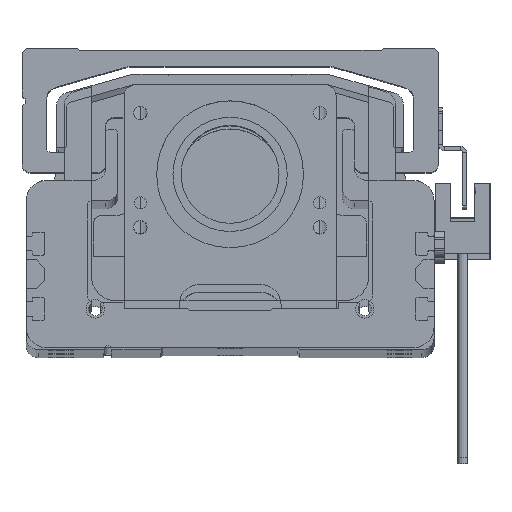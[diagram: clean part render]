
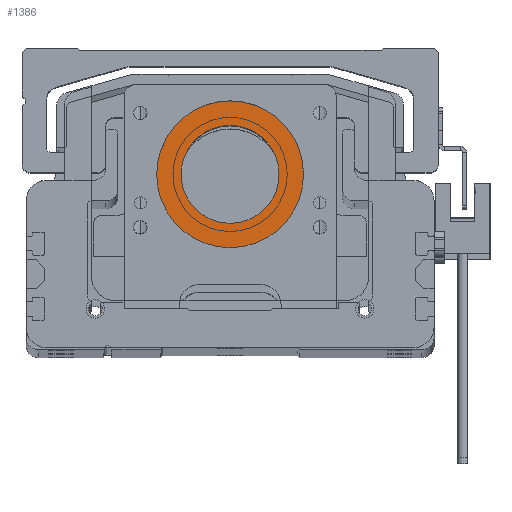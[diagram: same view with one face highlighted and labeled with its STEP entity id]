
A CAD part, top view. The second image highlights one B-rep face of the part: STEP entity #1386.
In plain terms, the highlighted planar face has unit normal (0, 0, 1).
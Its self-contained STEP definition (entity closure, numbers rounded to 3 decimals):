
#444 = ORIENTED_EDGE ( 'NONE', *, *, #28248, .F. ) ;
#1367 = VERTEX_POINT ( 'NONE', #7648 ) ;
#1386 = ADVANCED_FACE ( 'NONE', ( #25254, #20222 ), #19159, .T. ) ;
#3320 = AXIS2_PLACEMENT_3D ( 'NONE', #26823, #11788, #29300 ) ;
#3762 = VERTEX_POINT ( 'NONE', #11375 ) ;
#6545 = AXIS2_PLACEMENT_3D ( 'NONE', #17892, #16988, #17840 ) ;
#7648 = CARTESIAN_POINT ( 'NONE',  ( -12., 33., 2.5 ) ) ;
#8000 = VERTEX_POINT ( 'NONE', #25810 ) ;
#8312 = CARTESIAN_POINT ( 'NONE',  ( 0., 33., 2.5 ) ) ;
#8843 = CIRCLE ( 'NONE', #3320, 18. ) ;
#9722 = EDGE_CURVE ( 'NONE', #3762, #8000, #29353, .T. ) ;
#10732 = VERTEX_POINT ( 'NONE', #19808 ) ;
#10898 = DIRECTION ( 'NONE',  ( 1., 0., 0. ) ) ;
#11375 = CARTESIAN_POINT ( 'NONE',  ( 18., 33., 2.5 ) ) ;
#11782 = EDGE_CURVE ( 'NONE', #1367, #10732, #15376, .T. ) ;
#11788 = DIRECTION ( 'NONE',  ( 0., 0., 1. ) ) ;
#12313 = AXIS2_PLACEMENT_3D ( 'NONE', #8312, #25926, #10898 ) ;
#12729 = CIRCLE ( 'NONE', #12313, 12. ) ;
#13411 = EDGE_LOOP ( 'NONE', ( #444, #32366 ) ) ;
#14792 = DIRECTION ( 'NONE',  ( 0., 0., 1. ) ) ;
#14838 = CARTESIAN_POINT ( 'NONE',  ( 0., 33., 2.5 ) ) ;
#14867 = DIRECTION ( 'NONE',  ( 1., 0., 0. ) ) ;
#14897 = DIRECTION ( 'NONE',  ( 0., 0., 1. ) ) ;
#15376 = CIRCLE ( 'NONE', #6545, 12. ) ;
#15767 = CARTESIAN_POINT ( 'NONE',  ( 0., 33., 2.5 ) ) ;
#16988 = DIRECTION ( 'NONE',  ( 0., 0., 1. ) ) ;
#17840 = DIRECTION ( 'NONE',  ( 1., 0., 0. ) ) ;
#17892 = CARTESIAN_POINT ( 'NONE',  ( 0., 33., 2.5 ) ) ;
#18421 = AXIS2_PLACEMENT_3D ( 'NONE', #14838, #14897, #14867 ) ;
#19159 = PLANE ( 'NONE',  #31631 ) ;
#19808 = CARTESIAN_POINT ( 'NONE',  ( 12., 33., 2.5 ) ) ;
#20222 = FACE_BOUND ( 'NONE', #13411, .T. ) ;
#22556 = EDGE_CURVE ( 'NONE', #8000, #3762, #8843, .T. ) ;
#23501 = DIRECTION ( 'NONE',  ( 1., 0., 0. ) ) ;
#25254 = FACE_OUTER_BOUND ( 'NONE', #31797, .T. ) ;
#25810 = CARTESIAN_POINT ( 'NONE',  ( -18., 33., 2.5 ) ) ;
#25926 = DIRECTION ( 'NONE',  ( 0., 0., 1. ) ) ;
#26823 = CARTESIAN_POINT ( 'NONE',  ( 0., 33., 2.5 ) ) ;
#28248 = EDGE_CURVE ( 'NONE', #10732, #1367, #12729, .T. ) ;
#28382 = ORIENTED_EDGE ( 'NONE', *, *, #9722, .T. ) ;
#29300 = DIRECTION ( 'NONE',  ( 1., 0., 0. ) ) ;
#29353 = CIRCLE ( 'NONE', #18421, 18. ) ;
#30304 = ORIENTED_EDGE ( 'NONE', *, *, #22556, .T. ) ;
#31631 = AXIS2_PLACEMENT_3D ( 'NONE', #15767, #14792, #23501 ) ;
#31797 = EDGE_LOOP ( 'NONE', ( #28382, #30304 ) ) ;
#32366 = ORIENTED_EDGE ( 'NONE', *, *, #11782, .F. ) ;
